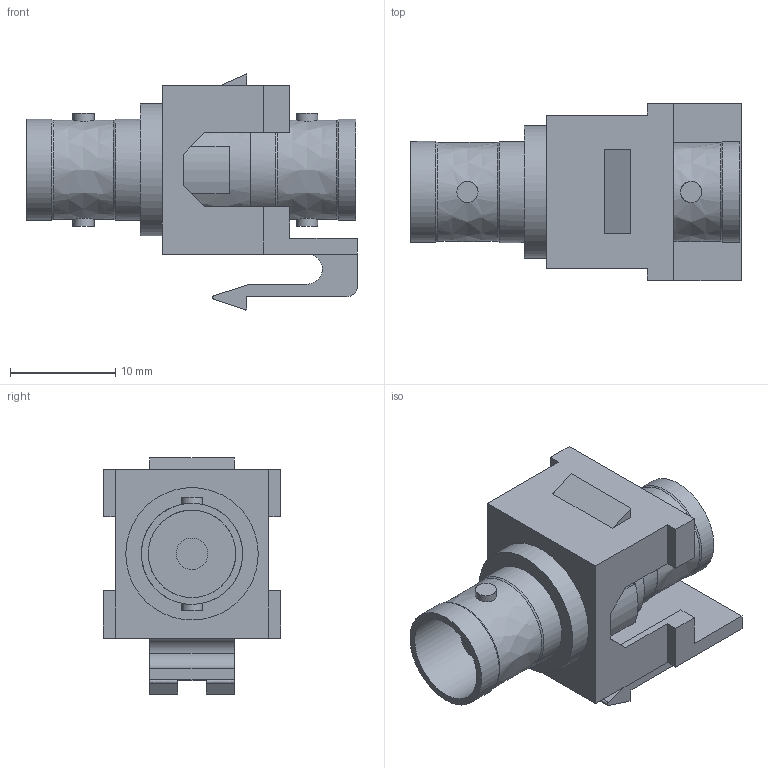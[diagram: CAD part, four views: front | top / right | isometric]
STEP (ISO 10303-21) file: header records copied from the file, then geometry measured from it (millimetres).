
FILE_DESCRIPTION( ('This file contains a STEP AP42 implementation' ,'as created by ZW3D STEP Interface translator.') ,'2;1' );
FILE_NAME( 'TB-041_3020BS3B5BNWH_SD.stp' ,'26 330.134527', (''), ('ZWCAD Software Co.'), 'Version 1.0', 'ZW3D to STEP translator', '' );
FILE_SCHEMA(('AUTOMOTIVE_DESIGN'));
Length unit declared in the file: millimetre
Products named in the file (2): 0; TB-041_3020BS3B5BNWH_SD
Bounding box: 31.37 x 16.8 x 22.41 mm (x, y, z)
Volume: 2758 mm3; surface area: 3720.2 mm2
Topology: 1 solids, 1 shells, 96 faces, 247 edges, 164 vertices
Faces by surface type: bspline 96
Entity records: 5927 total; most frequent: CARTESIAN_POINT 4267, ORIENTED_EDGE 494, B_SPLINE_CURVE_WITH_KNOTS 247, EDGE_CURVE 247, VERTEX_POINT 164, EDGE_LOOP 107, FACE_OUTER_BOUND 96, ADVANCED_FACE 96
